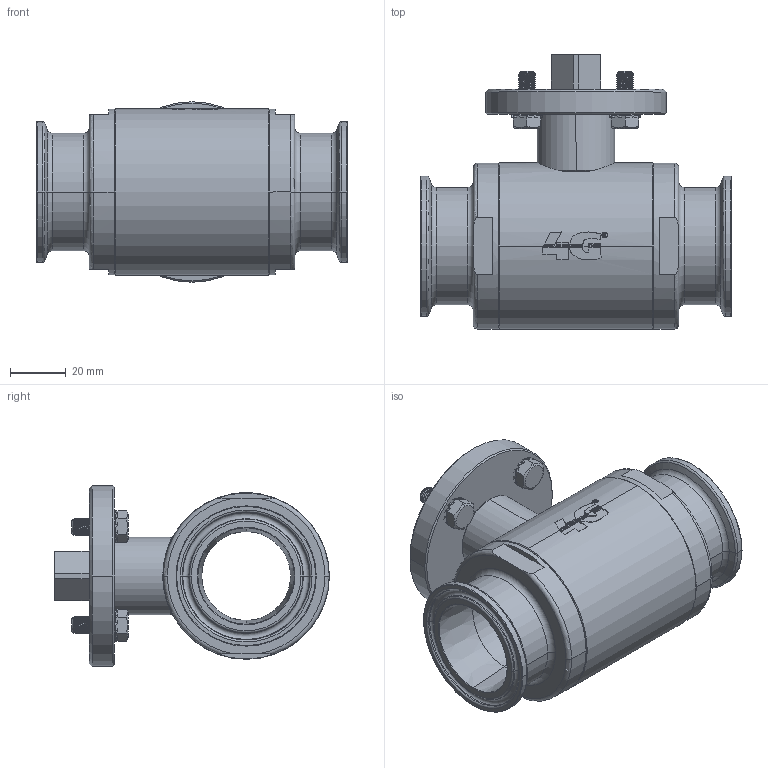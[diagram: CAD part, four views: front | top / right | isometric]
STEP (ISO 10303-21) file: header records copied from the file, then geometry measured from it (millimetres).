
FILE_DESCRIPTION((''),'2;1');
FILE_NAME('1030306321F','2019-11-06T11:40:47',('UFFICIO TECNICO'),('CDM Tecnoconsulting'),'CREO PARAMETRIC BY PTC INC, 2019080','CREO PARAMETRIC BY PTC INC, 2019080','');
FILE_SCHEMA(('CONFIG_CONTROL_DESIGN','SHAPE_APPEARANCE_LAYERS_GROUPS'));
Products named in the file (1): 1030306321F
Bounding box: 112 x 99 x 65 mm (x, y, z)
Surface area: 55826.3 mm2 (no closed solid volume)
Topology: 0 solids, 27 shells, 955 faces, 3302 edges, 2303 vertices
Faces by surface type: cylinder 348, plane 292, cone 142, bspline 112, torus 46, extrusion 15
Entity records: 85942 total; most frequent: CARTESIAN_POINT 49824, ORIENTED_EDGE 5555, DIRECTION 4298, PRESENTATION_STYLE_ASSIGNMENT 3412, STYLED_ITEM 3335, CURVE_STYLE 3315, EDGE_CURVE 3300, VERTEX_POINT 2303
